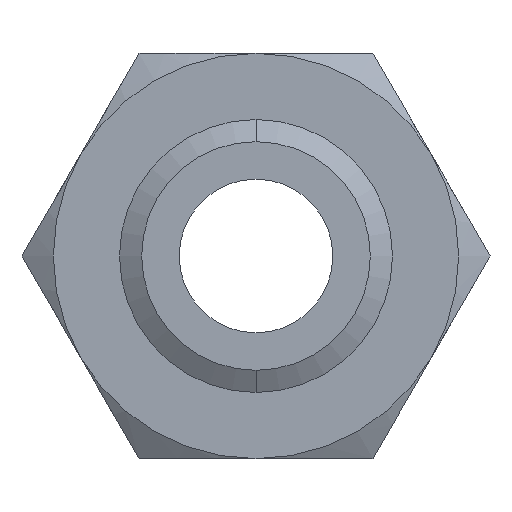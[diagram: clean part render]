
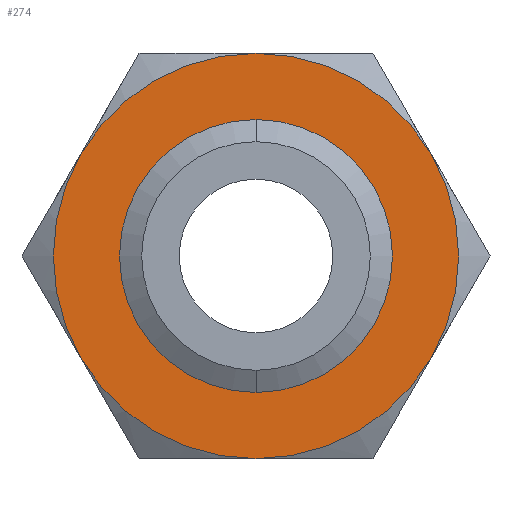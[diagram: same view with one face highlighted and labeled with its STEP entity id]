
A CAD part, front view. The second image highlights one B-rep face of the part: STEP entity #274.
In plain terms, the highlighted planar face has unit normal (0, -1, 0).
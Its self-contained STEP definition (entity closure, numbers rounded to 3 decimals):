
#239 = EDGE_CURVE ( 'NONE', #245, #240, #1026, .T. ) ;
#240 = VERTEX_POINT ( 'NONE', #1021 ) ;
#244 = ORIENTED_EDGE ( 'NONE', *, *, #239, .F. ) ;
#245 = VERTEX_POINT ( 'NONE', #1018 ) ;
#248 = EDGE_CURVE ( 'NONE', #253, #266, #1009, .T. ) ;
#249 = ORIENTED_EDGE ( 'NONE', *, *, #248, .F. ) ;
#252 = EDGE_LOOP ( 'NONE', ( #277, #263, #249, #254, #244, #480 ) ) ;
#253 = VERTEX_POINT ( 'NONE', #1063 ) ;
#254 = ORIENTED_EDGE ( 'NONE', *, *, #258, .F. ) ;
#258 = EDGE_CURVE ( 'NONE', #240, #253, #1062, .T. ) ;
#262 = VERTEX_POINT ( 'NONE', #1053 ) ;
#263 = ORIENTED_EDGE ( 'NONE', *, *, #265, .F. ) ;
#264 = VERTEX_POINT ( 'NONE', #1052 ) ;
#265 = EDGE_CURVE ( 'NONE', #266, #264, #1051, .T. ) ;
#266 = VERTEX_POINT ( 'NONE', #1046 ) ;
#274 = ADVANCED_FACE ( 'NONE', ( #1094, #1093 ), #1092, .F. ) ;
#277 = ORIENTED_EDGE ( 'NONE', *, *, #282, .F. ) ;
#282 = EDGE_CURVE ( 'NONE', #264, #262, #1073, .T. ) ;
#317 = EDGE_CURVE ( 'NONE', #324, #320, #1133, .T. ) ;
#320 = VERTEX_POINT ( 'NONE', #1127 ) ;
#324 = VERTEX_POINT ( 'NONE', #1125 ) ;
#477 = ORIENTED_EDGE ( 'NONE', *, *, #478, .F. ) ;
#478 = EDGE_CURVE ( 'NONE', #320, #324, #1446, .T. ) ;
#479 = EDGE_LOOP ( 'NONE', ( #484, #477 ) ) ;
#480 = ORIENTED_EDGE ( 'NONE', *, *, #483, .F. ) ;
#483 = EDGE_CURVE ( 'NONE', #262, #245, #1491, .T. ) ;
#484 = ORIENTED_EDGE ( 'NONE', *, *, #317, .F. ) ;
#1005 = DIRECTION ( 'NONE',  ( 0., 0., 1. ) ) ;
#1006 = DIRECTION ( 'NONE',  ( 0., 1., 0. ) ) ;
#1007 = CARTESIAN_POINT ( 'NONE',  ( 0., 0., 0. ) ) ;
#1008 = AXIS2_PLACEMENT_3D ( 'NONE', #1007, #1006, #1005 ) ;
#1009 = CIRCLE ( 'NONE', #1008, 47.5 ) ;
#1018 = CARTESIAN_POINT ( 'NONE',  ( 41.136, 0., -23.75 ) ) ;
#1021 = CARTESIAN_POINT ( 'NONE',  ( 0., 0., -47.5 ) ) ;
#1022 = DIRECTION ( 'NONE',  ( 0., 0., 1. ) ) ;
#1023 = DIRECTION ( 'NONE',  ( 0., 1., 0. ) ) ;
#1024 = CARTESIAN_POINT ( 'NONE',  ( 0., 0., 0. ) ) ;
#1025 = AXIS2_PLACEMENT_3D ( 'NONE', #1024, #1023, #1022 ) ;
#1026 = CIRCLE ( 'NONE', #1025, 47.5 ) ;
#1046 = CARTESIAN_POINT ( 'NONE',  ( -41.136, 0., 23.75 ) ) ;
#1047 = DIRECTION ( 'NONE',  ( 0., 0., 1. ) ) ;
#1048 = DIRECTION ( 'NONE',  ( 0., 1., 0. ) ) ;
#1049 = CARTESIAN_POINT ( 'NONE',  ( 0., 0., 0. ) ) ;
#1050 = AXIS2_PLACEMENT_3D ( 'NONE', #1049, #1048, #1047 ) ;
#1051 = CIRCLE ( 'NONE', #1050, 47.5 ) ;
#1052 = CARTESIAN_POINT ( 'NONE',  ( 0., 0., 47.5 ) ) ;
#1053 = CARTESIAN_POINT ( 'NONE',  ( 41.136, 0., 23.75 ) ) ;
#1058 = DIRECTION ( 'NONE',  ( 0., 0., 1. ) ) ;
#1059 = DIRECTION ( 'NONE',  ( 0., 1., 0. ) ) ;
#1060 = CARTESIAN_POINT ( 'NONE',  ( 0., 0., 0. ) ) ;
#1061 = AXIS2_PLACEMENT_3D ( 'NONE', #1060, #1059, #1058 ) ;
#1062 = CIRCLE ( 'NONE', #1061, 47.5 ) ;
#1063 = CARTESIAN_POINT ( 'NONE',  ( -41.136, 0., -23.75 ) ) ;
#1070 = DIRECTION ( 'NONE',  ( 0., 0., 1. ) ) ;
#1071 = DIRECTION ( 'NONE',  ( 0., 1., 0. ) ) ;
#1072 = AXIS2_PLACEMENT_3D ( 'NONE', #1079, #1071, #1070 ) ;
#1073 = CIRCLE ( 'NONE', #1072, 47.5 ) ;
#1079 = CARTESIAN_POINT ( 'NONE',  ( 0., 0., 0. ) ) ;
#1088 = DIRECTION ( 'NONE',  ( 0., 0., 1. ) ) ;
#1089 = DIRECTION ( 'NONE',  ( 0., 1., 0. ) ) ;
#1090 = CARTESIAN_POINT ( 'NONE',  ( 27.424, 0., -47.5 ) ) ;
#1091 = AXIS2_PLACEMENT_3D ( 'NONE', #1090, #1089, #1088 ) ;
#1092 = PLANE ( 'NONE',  #1091 ) ;
#1093 = FACE_BOUND ( 'NONE', #479, .T. ) ;
#1094 = FACE_OUTER_BOUND ( 'NONE', #252, .T. ) ;
#1125 = CARTESIAN_POINT ( 'NONE',  ( 0., 0., -26.804 ) ) ;
#1127 = CARTESIAN_POINT ( 'NONE',  ( 0., 0., 26.804 ) ) ;
#1129 = DIRECTION ( 'NONE',  ( 0., 0., -1. ) ) ;
#1130 = DIRECTION ( 'NONE',  ( 0., -1., 0. ) ) ;
#1131 = CARTESIAN_POINT ( 'NONE',  ( 0., 0., 0. ) ) ;
#1132 = AXIS2_PLACEMENT_3D ( 'NONE', #1131, #1130, #1129 ) ;
#1133 = CIRCLE ( 'NONE', #1132, 26.804 ) ;
#1432 = DIRECTION ( 'NONE',  ( 0., 0., -1. ) ) ;
#1433 = DIRECTION ( 'NONE',  ( 0., -1., 0. ) ) ;
#1434 = CARTESIAN_POINT ( 'NONE',  ( 0., 0., 0. ) ) ;
#1435 = AXIS2_PLACEMENT_3D ( 'NONE', #1434, #1433, #1432 ) ;
#1436 = CARTESIAN_POINT ( 'NONE',  ( 0., 0., 0. ) ) ;
#1446 = CIRCLE ( 'NONE', #1435, 26.804 ) ;
#1488 = DIRECTION ( 'NONE',  ( 0., 0., 1. ) ) ;
#1489 = DIRECTION ( 'NONE',  ( 0., 1., 0. ) ) ;
#1490 = AXIS2_PLACEMENT_3D ( 'NONE', #1436, #1489, #1488 ) ;
#1491 = CIRCLE ( 'NONE', #1490, 47.5 ) ;
